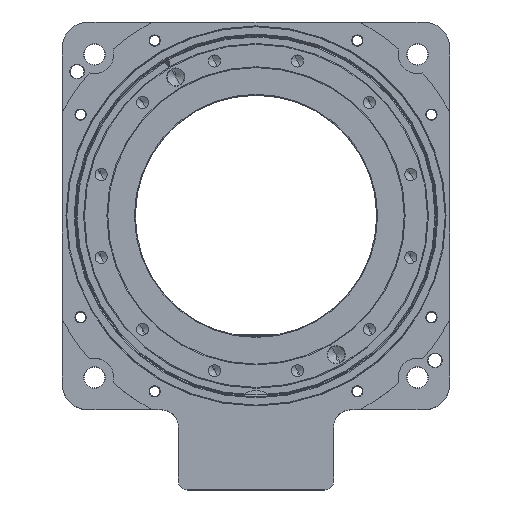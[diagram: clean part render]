
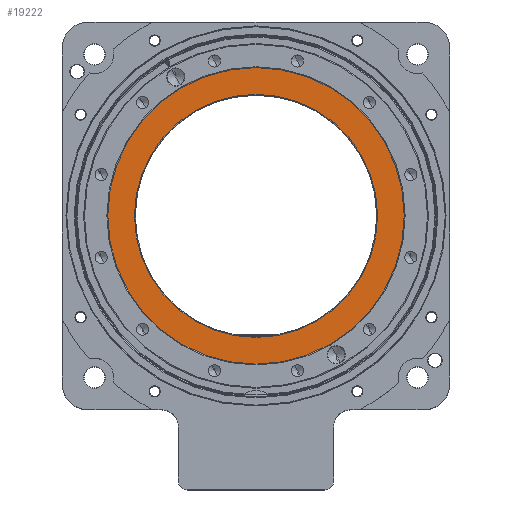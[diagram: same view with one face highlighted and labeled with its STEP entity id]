
A CAD part, top view. The second image highlights one B-rep face of the part: STEP entity #19222.
In plain terms, the highlighted planar face has unit normal (0, 0, 1) as drawn and (0, 1, 0) by its records, which use the part's own axes.
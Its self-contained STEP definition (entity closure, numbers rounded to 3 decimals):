
#228 = CARTESIAN_POINT ( 'NONE',  ( 0., 58.14, 0. ) ) ;
#2299 = AXIS2_PLACEMENT_3D ( 'NONE', #29398, #11821, #21525 ) ;
#2338 = FACE_BOUND ( 'NONE', #19108, .T. ) ;
#2612 = ORIENTED_EDGE ( 'NONE', *, *, #6055, .F. ) ;
#2839 = CIRCLE ( 'NONE', #2299, 172. ) ;
#4444 = EDGE_CURVE ( 'NONE', #11771, #11187, #5845, .T. ) ;
#5450 = DIRECTION ( 'NONE',  ( 0., 0., -1. ) ) ;
#5845 = CIRCLE ( 'NONE', #13359, 141. ) ;
#5979 = EDGE_CURVE ( 'NONE', #11187, #11771, #17289, .T. ) ;
#6055 = EDGE_CURVE ( 'NONE', #24161, #29392, #2839, .T. ) ;
#8317 = CARTESIAN_POINT ( 'NONE',  ( 0., 58.14, 0. ) ) ;
#10896 = EDGE_CURVE ( 'NONE', #29392, #24161, #30573, .T. ) ;
#11057 = DIRECTION ( 'NONE',  ( 0., 0., -1. ) ) ;
#11187 = VERTEX_POINT ( 'NONE', #22504 ) ;
#11771 = VERTEX_POINT ( 'NONE', #30504 ) ;
#11821 = DIRECTION ( 'NONE',  ( 0., -1., 0. ) ) ;
#12578 = PLANE ( 'NONE',  #23742 ) ;
#12802 = DIRECTION ( 'NONE',  ( 0., 0., -1. ) ) ;
#13334 = DIRECTION ( 'NONE',  ( 0., -1., 0. ) ) ;
#13359 = AXIS2_PLACEMENT_3D ( 'NONE', #27247, #20506, #12802 ) ;
#15097 = FACE_OUTER_BOUND ( 'NONE', #25809, .T. ) ;
#17260 = CARTESIAN_POINT ( 'NONE',  ( 0., 58.14, -172. ) ) ;
#17289 = CIRCLE ( 'NONE', #31190, 141. ) ;
#17863 = DIRECTION ( 'NONE',  ( 0., 0., -1. ) ) ;
#19108 = EDGE_LOOP ( 'NONE', ( #25054, #23655 ) ) ;
#19222 = ADVANCED_FACE ( 'NONE', ( #15097, #2338 ), #12578, .F. ) ;
#20506 = DIRECTION ( 'NONE',  ( 0., -1., 0. ) ) ;
#20786 = CARTESIAN_POINT ( 'NONE',  ( -172., 58.14, 0. ) ) ;
#21272 = DIRECTION ( 'NONE',  ( 0., -1., 0. ) ) ;
#21525 = DIRECTION ( 'NONE',  ( 0., 0., -1. ) ) ;
#21759 = ORIENTED_EDGE ( 'NONE', *, *, #10896, .F. ) ;
#22504 = CARTESIAN_POINT ( 'NONE',  ( 0., 58.14, 141. ) ) ;
#23546 = DIRECTION ( 'NONE',  ( 0., -1., 0. ) ) ;
#23655 = ORIENTED_EDGE ( 'NONE', *, *, #5979, .T. ) ;
#23742 = AXIS2_PLACEMENT_3D ( 'NONE', #20786, #21272, #11057 ) ;
#24161 = VERTEX_POINT ( 'NONE', #32512 ) ;
#24679 = AXIS2_PLACEMENT_3D ( 'NONE', #228, #13334, #17863 ) ;
#25054 = ORIENTED_EDGE ( 'NONE', *, *, #4444, .T. ) ;
#25809 = EDGE_LOOP ( 'NONE', ( #21759, #2612 ) ) ;
#27247 = CARTESIAN_POINT ( 'NONE',  ( 0., 58.14, 0. ) ) ;
#29392 = VERTEX_POINT ( 'NONE', #17260 ) ;
#29398 = CARTESIAN_POINT ( 'NONE',  ( 0., 58.14, 0. ) ) ;
#30504 = CARTESIAN_POINT ( 'NONE',  ( 0., 58.14, -141. ) ) ;
#30573 = CIRCLE ( 'NONE', #24679, 172. ) ;
#31190 = AXIS2_PLACEMENT_3D ( 'NONE', #8317, #23546, #5450 ) ;
#32512 = CARTESIAN_POINT ( 'NONE',  ( 0., 58.14, 172. ) ) ;
